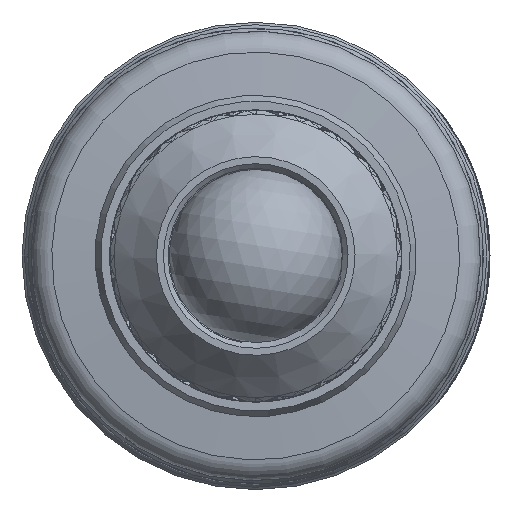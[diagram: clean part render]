
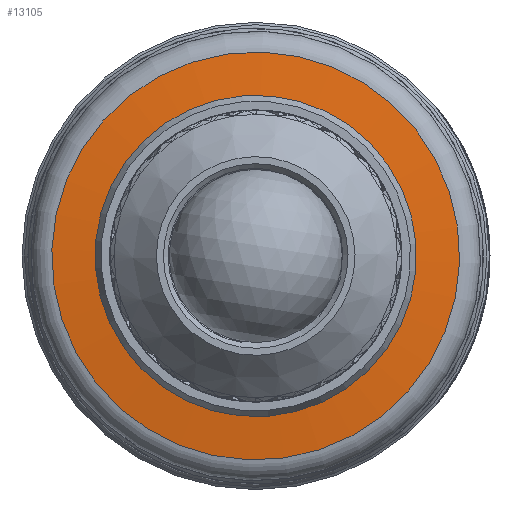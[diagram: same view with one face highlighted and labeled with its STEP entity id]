
A CAD part, front view. The second image highlights one B-rep face of the part: STEP entity #13105.
In plain terms, the highlighted conical face has half-angle 84.122 degrees and reference radius 3.491 mm.
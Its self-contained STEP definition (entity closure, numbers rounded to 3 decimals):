
#307 = DIRECTION ( 'NONE',  ( -0.928, 0., 0.372 ) ) ;
#3882 = FACE_BOUND ( 'NONE', #15360, .T. ) ;
#5960 = CARTESIAN_POINT ( 'NONE',  ( 0., 11.714, 0. ) ) ;
#11304 = VERTEX_POINT ( 'NONE', #20112 ) ;
#11953 = EDGE_CURVE ( 'NONE', #25239, #25239, #18700, .T. ) ;
#12497 = EDGE_CURVE ( 'NONE', #11304, #11304, #33083, .T. ) ;
#13105 = ADVANCED_FACE ( 'NONE', ( #3882, #15927 ), #33500, .T. ) ;
#14560 = DIRECTION ( 'NONE',  ( 0., 1., 0. ) ) ;
#15360 = EDGE_LOOP ( 'NONE', ( #19135 ) ) ;
#15927 = FACE_OUTER_BOUND ( 'NONE', #33514, .T. ) ;
#17567 = CARTESIAN_POINT ( 'NONE',  ( -2.218, 11.6, 0.889 ) ) ;
#18610 = CARTESIAN_POINT ( 'NONE',  ( 0., 11.6, 0. ) ) ;
#18700 = CIRCLE ( 'NONE', #19341, 2.39 ) ;
#19135 = ORIENTED_EDGE ( 'NONE', *, *, #11953, .T. ) ;
#19341 = AXIS2_PLACEMENT_3D ( 'NONE', #18610, #35932, #26856 ) ;
#19851 = AXIS2_PLACEMENT_3D ( 'NONE', #5960, #14560, #307 ) ;
#20112 = CARTESIAN_POINT ( 'NONE',  ( -3.241, 11.714, 1.298 ) ) ;
#25239 = VERTEX_POINT ( 'NONE', #17567 ) ;
#25858 = AXIS2_PLACEMENT_3D ( 'NONE', #28043, #27910, #30802 ) ;
#26856 = DIRECTION ( 'NONE',  ( -0.928, 0., 0.372 ) ) ;
#27910 = DIRECTION ( 'NONE',  ( 0., 1., 0. ) ) ;
#28043 = CARTESIAN_POINT ( 'NONE',  ( 0., 11.714, 0. ) ) ;
#30802 = DIRECTION ( 'NONE',  ( -0.928, 0., 0.372 ) ) ;
#32231 = ORIENTED_EDGE ( 'NONE', *, *, #12497, .F. ) ;
#33083 = CIRCLE ( 'NONE', #25858, 3.491 ) ;
#33500 = CONICAL_SURFACE ( 'NONE', #19851, 3.491, 1.468 ) ;
#33514 = EDGE_LOOP ( 'NONE', ( #32231 ) ) ;
#35932 = DIRECTION ( 'NONE',  ( 0., 1., 0. ) ) ;
